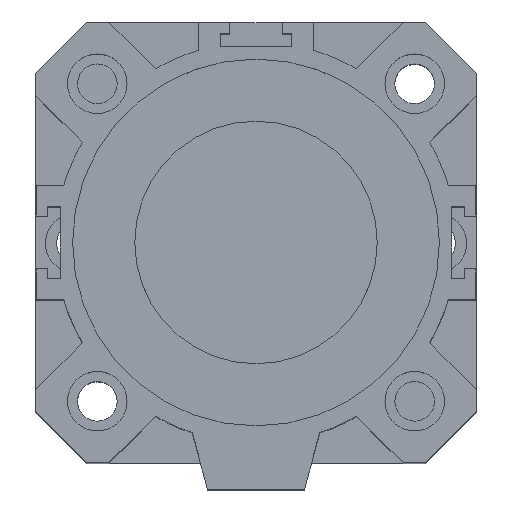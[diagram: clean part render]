
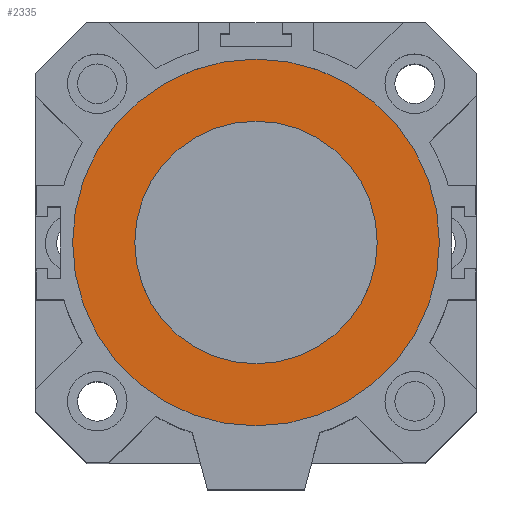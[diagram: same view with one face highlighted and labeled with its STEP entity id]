
A CAD part, top view. The second image highlights one B-rep face of the part: STEP entity #2335.
In plain terms, the highlighted planar face has unit normal (0, 0, 1).
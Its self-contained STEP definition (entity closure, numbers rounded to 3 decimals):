
#449=PLANE('',#2486);
#547=FACE_BOUND('',#766,.T.);
#548=FACE_BOUND('',#767,.T.);
#766=EDGE_LOOP('',(#1592));
#767=EDGE_LOOP('',(#1593));
#977=CIRCLE('',#2481,27.5);
#979=CIRCLE('',#2484,41.6);
#1065=VERTEX_POINT('',#3388);
#1067=VERTEX_POINT('',#3393);
#1287=EDGE_CURVE('',#1065,#1065,#977,.T.);
#1289=EDGE_CURVE('',#1067,#1067,#979,.T.);
#1592=ORIENTED_EDGE('',*,*,#1287,.F.);
#1593=ORIENTED_EDGE('',*,*,#1289,.F.);
#2335=ADVANCED_FACE('',(#547,#548),#449,.T.);
#2481=AXIS2_PLACEMENT_3D('',#3389,#2720,#2721);
#2484=AXIS2_PLACEMENT_3D('',#3394,#2726,#2727);
#2486=AXIS2_PLACEMENT_3D('',#3397,#2730,#2731);
#2720=DIRECTION('center_axis',(0.,0.,1.));
#2721=DIRECTION('ref_axis',(-1.,0.,0.));
#2726=DIRECTION('center_axis',(0.,0.,-1.));
#2727=DIRECTION('ref_axis',(-1.,0.,0.));
#2730=DIRECTION('center_axis',(0.,0.,1.));
#2731=DIRECTION('ref_axis',(1.,0.,0.));
#3388=CARTESIAN_POINT('',(27.5,0.,37.));
#3389=CARTESIAN_POINT('Origin',(0.,0.,37.));
#3393=CARTESIAN_POINT('',(41.6,0.,37.));
#3394=CARTESIAN_POINT('Origin',(0.,0.,37.));
#3397=CARTESIAN_POINT('Origin',(0.,0.,
37.));
